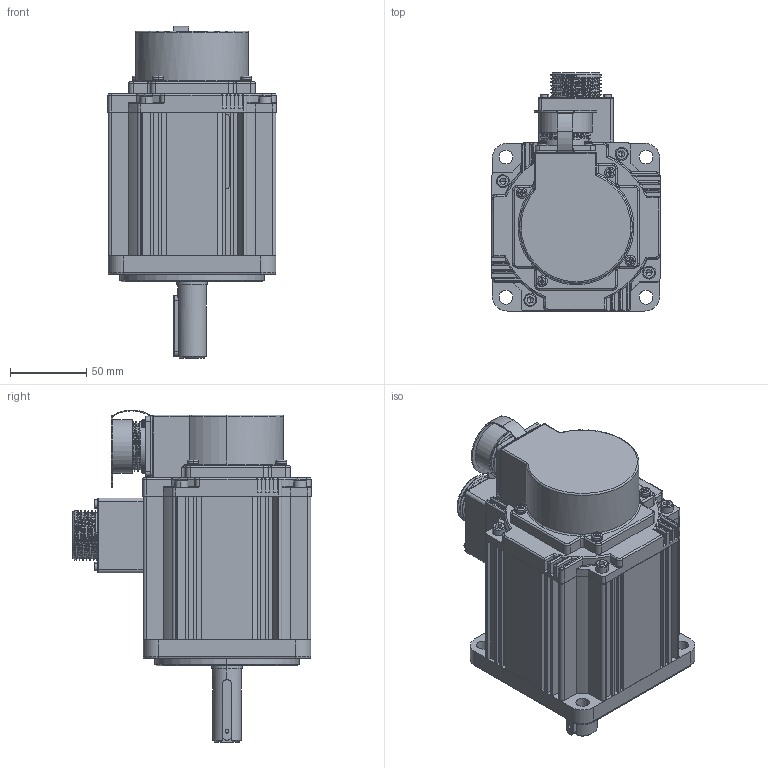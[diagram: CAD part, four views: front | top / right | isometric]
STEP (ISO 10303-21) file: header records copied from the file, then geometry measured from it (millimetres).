
FILE_DESCRIPTION (( 'STEP AP214' ), '1' );
FILE_NAME ('5420.STEP', '2024-01-31T03:01:58', ( '' ), ( '' ), 'SwSTEP 2.0', 'SolidWorks 2019', '' );
FILE_SCHEMA (( 'AUTOMOTIVE_DESIGN' ));
Length unit declared in the file: millimetre
Products named in the file (2): 5420
Bounding box: 110.2 x 156.1 x 217.72 mm (x, y, z)
Surface area: 142407.7 mm2 (no closed solid volume)
Topology: 0 solids, 73 shells, 945 faces, 2863 edges, 1946 vertices
Faces by surface type: plane 378, cylinder 363, torus 106, cone 66, bspline 22, sphere 10
Entity records: 46137 total; most frequent: CARTESIAN_POINT 10606, DIRECTION 5470, ORIENTED_EDGE 4626, EDGE_CURVE 2818, AXIS2_PLACEMENT_3D 2012, VERTEX_POINT 1938, LINE 1446, VECTOR 1446
